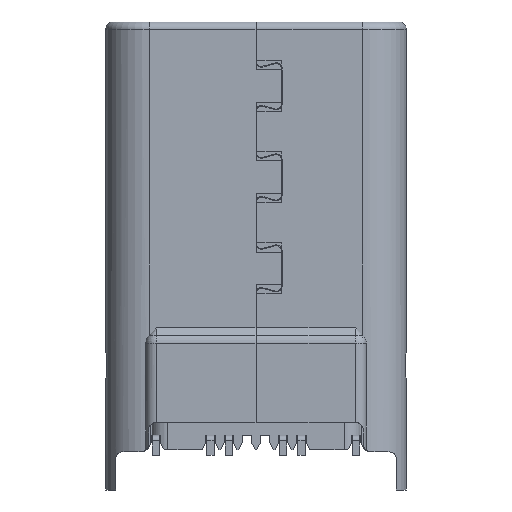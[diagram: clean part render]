
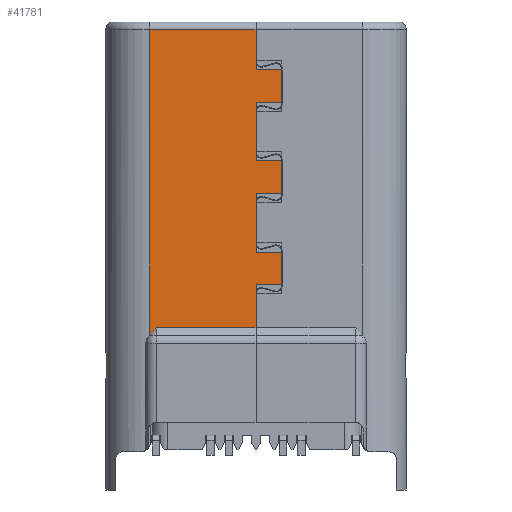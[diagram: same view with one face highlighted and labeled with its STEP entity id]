
A CAD part, front view. The second image highlights one B-rep face of the part: STEP entity #41781.
In plain terms, the highlighted planar face has unit normal (0, -1, 0).
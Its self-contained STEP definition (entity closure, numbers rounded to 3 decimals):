
#37986=CARTESIAN_POINT('',(-2.925,-1.2,2.15));
#37987=VERTEX_POINT('',#37986);
#37997=CARTESIAN_POINT('',(-2.925,-1.2,10.55));
#37998=VERTEX_POINT('',#37997);
#37999=CARTESIAN_POINT('',(-2.925,-1.2,10.55));
#38000=DIRECTION('',(0.0,-0.0,-1.0));
#38001=VECTOR('',#38000,1.0);
#38002=LINE('',#37999,#38001);
#38003=EDGE_CURVE('no 41445',#37998,#37987,#38002,.T.);
#40666=CARTESIAN_POINT('',(0.7,-1.2,9.435));
#40667=VERTEX_POINT('',#40666);
#40674=CARTESIAN_POINT('',(0.7,-1.2,8.535));
#40675=VERTEX_POINT('',#40674);
#40676=CARTESIAN_POINT('',(0.7,-1.2,9.435));
#40677=DIRECTION('',(0.0,0.0,-1.0));
#40678=VECTOR('',#40677,1.0);
#40679=LINE('',#40676,#40678);
#40680=EDGE_CURVE('no 5288',#40667,#40675,#40679,.T.);
#40804=CARTESIAN_POINT('',(0.,-1.2,8.535));
#40805=VERTEX_POINT('',#40804);
#40812=CARTESIAN_POINT('',(0.,-1.2,6.935));
#40813=VERTEX_POINT('',#40812);
#40814=CARTESIAN_POINT('',(0.,-1.2,8.535));
#40815=DIRECTION('',(0.0,0.0,-1.0));
#40816=VECTOR('',#40815,1.0);
#40817=LINE('',#40814,#40816);
#40818=EDGE_CURVE('no 7037',#40805,#40813,#40817,.T.);
#40924=CARTESIAN_POINT('',(0.7,-1.2,6.935));
#40925=VERTEX_POINT('',#40924);
#40934=CARTESIAN_POINT('',(0.7,-1.2,6.035));
#40935=VERTEX_POINT('',#40934);
#40936=CARTESIAN_POINT('',(0.7,-1.2,6.935));
#40937=DIRECTION('',(0.0,0.0,-1.0));
#40938=VECTOR('',#40937,1.0);
#40939=LINE('',#40936,#40938);
#40940=EDGE_CURVE('no 41941',#40925,#40935,#40939,.T.);
#41064=CARTESIAN_POINT('',(0.,-1.2,6.035));
#41065=VERTEX_POINT('',#41064);
#41072=CARTESIAN_POINT('',(0.,-1.2,4.435));
#41073=VERTEX_POINT('',#41072);
#41074=CARTESIAN_POINT('',(0.,-1.2,6.035));
#41075=DIRECTION('',(0.0,0.0,-1.0));
#41076=VECTOR('',#41075,1.0);
#41077=LINE('',#41074,#41076);
#41078=EDGE_CURVE('no 9587',#41065,#41073,#41077,.T.);
#41184=CARTESIAN_POINT('',(0.7,-1.2,4.435));
#41185=VERTEX_POINT('',#41184);
#41194=CARTESIAN_POINT('',(0.7,-1.2,3.535));
#41195=VERTEX_POINT('',#41194);
#41196=CARTESIAN_POINT('',(0.7,-1.2,4.435));
#41197=DIRECTION('',(0.0,0.0,-1.0));
#41198=VECTOR('',#41197,1.0);
#41199=LINE('',#41196,#41198);
#41200=EDGE_CURVE('no 6621',#41185,#41195,#41199,.T.);
#41314=CARTESIAN_POINT('',(0.,-1.2,2.35));
#41315=VERTEX_POINT('',#41314);
#41390=CARTESIAN_POINT('',(0.,-1.2,3.535));
#41391=VERTEX_POINT('',#41390);
#41398=CARTESIAN_POINT('',(0.,-1.2,3.535));
#41399=DIRECTION('',(0.,0.0,-1.0));
#41400=VECTOR('',#41399,1.0);
#41401=LINE('',#41398,#41400);
#41402=EDGE_CURVE('no 30560',#41391,#41315,#41401,.T.);
#41543=CARTESIAN_POINT('',(0.0,-1.2,10.55));
#41544=VERTEX_POINT('',#41543);
#41552=CARTESIAN_POINT('',(0.,-1.2,9.435));
#41553=VERTEX_POINT('',#41552);
#41554=CARTESIAN_POINT('',(0.,-1.2,10.55));
#41555=DIRECTION('',(0.,-0.0,-1.0));
#41556=VECTOR('',#41555,1.0);
#41557=LINE('',#41554,#41556);
#41558=EDGE_CURVE('no 42260',#41544,#41553,#41557,.T.);
#41693=CARTESIAN_POINT('',(-2.725,-1.2,2.35));
#41694=VERTEX_POINT('',#41693);
#41695=CARTESIAN_POINT('',(-2.725,-1.2,2.35));
#41696=DIRECTION('',(-0.707,-0.0,-0.707));
#41697=VECTOR('',#41696,1.0);
#41698=LINE('',#41695,#41697);
#41699=EDGE_CURVE('no 2097',#41694,#37987,#41698,.T.);
#41717=CARTESIAN_POINT('',(0.,-1.2,10.55));
#41718=DIRECTION('',(-1.0,-0.0,0.0));
#41719=VECTOR('',#41718,1.0);
#41720=LINE('',#41717,#41719);
#41721=EDGE_CURVE('no 41459',#41544,#37998,#41720,.T.);
#41722=ORIENTED_EDGE('no 18182',*,*,#41721,.T.);
#41723=ORIENTED_EDGE('no 7647',*,*,#38003,.T.);
#41724=ORIENTED_EDGE('no 15150',*,*,#41699,.F.);
#41725=CARTESIAN_POINT('',(-2.725,-1.2,2.35));
#41726=DIRECTION('',(1.0,0.0,0.0));
#41727=VECTOR('',#41726,1.0);
#41728=LINE('',#41725,#41727);
#41729=EDGE_CURVE('no 32558',#41694,#41315,#41728,.T.);
#41730=ORIENTED_EDGE('no 5812',*,*,#41729,.T.);
#41731=ORIENTED_EDGE('no 35785',*,*,#41402,.F.);
#41732=CARTESIAN_POINT('',(0.7,-1.2,3.535));
#41733=DIRECTION('',(-1.0,0.0,-0.0));
#41734=VECTOR('',#41733,1.0);
#41735=LINE('',#41732,#41734);
#41736=EDGE_CURVE('no 5182',#41195,#41391,#41735,.T.);
#41737=ORIENTED_EDGE('no 5958',*,*,#41736,.F.);
#41738=ORIENTED_EDGE('no 12893',*,*,#41200,.F.);
#41739=CARTESIAN_POINT('',(0.,-1.2,4.435));
#41740=DIRECTION('',(1.0,0.0,-0.0));
#41741=VECTOR('',#41740,1.0);
#41742=LINE('',#41739,#41741);
#41743=EDGE_CURVE('no 44768',#41073,#41185,#41742,.T.);
#41744=ORIENTED_EDGE('no 32048',*,*,#41743,.F.);
#41745=ORIENTED_EDGE('no 39759',*,*,#41078,.F.);
#41746=CARTESIAN_POINT('',(0.7,-1.2,6.035));
#41747=DIRECTION('',(-1.0,0.0,-0.0));
#41748=VECTOR('',#41747,1.0);
#41749=LINE('',#41746,#41748);
#41750=EDGE_CURVE('no 12551',#40935,#41065,#41749,.T.);
#41751=ORIENTED_EDGE('no 12165',*,*,#41750,.F.);
#41752=ORIENTED_EDGE('no 17232',*,*,#40940,.F.);
#41753=CARTESIAN_POINT('',(0.,-1.2,6.935));
#41754=DIRECTION('',(1.0,0.0,-0.0));
#41755=VECTOR('',#41754,1.0);
#41756=LINE('',#41753,#41755);
#41757=EDGE_CURVE('no 14027',#40813,#40925,#41756,.T.);
#41758=ORIENTED_EDGE('no 9524',*,*,#41757,.F.);
#41759=ORIENTED_EDGE('no 28709',*,*,#40818,.F.);
#41760=CARTESIAN_POINT('',(0.7,-1.2,8.535));
#41761=DIRECTION('',(-1.0,0.0,-0.0));
#41762=VECTOR('',#41761,1.0);
#41763=LINE('',#41760,#41762);
#41764=EDGE_CURVE('no 20500',#40675,#40805,#41763,.T.);
#41765=ORIENTED_EDGE('no 24276',*,*,#41764,.F.);
#41766=ORIENTED_EDGE('no 25082',*,*,#40680,.F.);
#41767=CARTESIAN_POINT('',(0.,-1.2,9.435));
#41768=DIRECTION('',(1.0,0.0,-0.0));
#41769=VECTOR('',#41768,1.0);
#41770=LINE('',#41767,#41769);
#41771=EDGE_CURVE('no 40079',#41553,#40667,#41770,.T.);
#41772=ORIENTED_EDGE('no 5995',*,*,#41771,.F.);
#41773=ORIENTED_EDGE('no 4814',*,*,#41558,.F.);
#41774=EDGE_LOOP('',(
    #41722,#41723,#41724,#41730,#41731,#41737,#41738,#41744,#41745,#41751,
    #41752,#41758,#41759,#41765,#41766,#41772,#41773));
#41775=FACE_OUTER_BOUND('',#41774,.T.);
#41776=CARTESIAN_POINT('',(-1.112,-1.2,6.35));
#41777=DIRECTION('',(-0.0,1.0,0.0));
#41778=DIRECTION('',(1.0,0.0,0.0));
#41779=AXIS2_PLACEMENT_3D('',#41776,#41777,#41778);
#41780=PLANE('',#41779);
#41781=ADVANCED_FACE('no 36765',(#41775),#41780,.F.);
